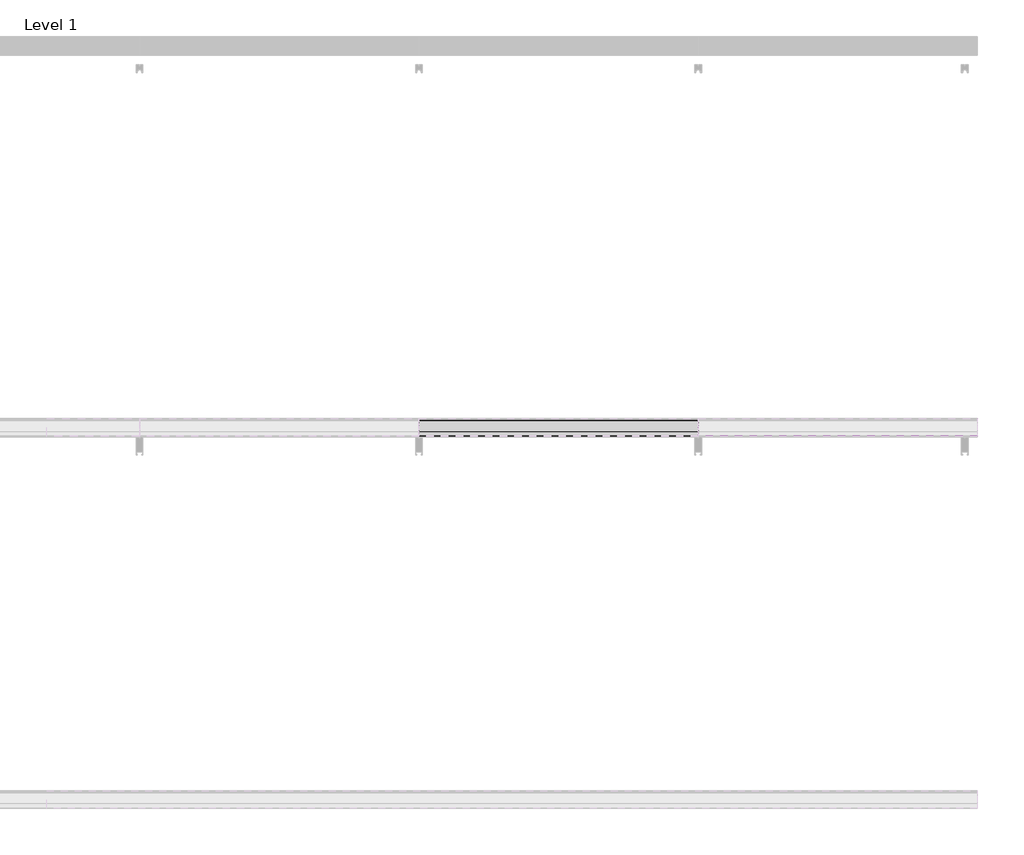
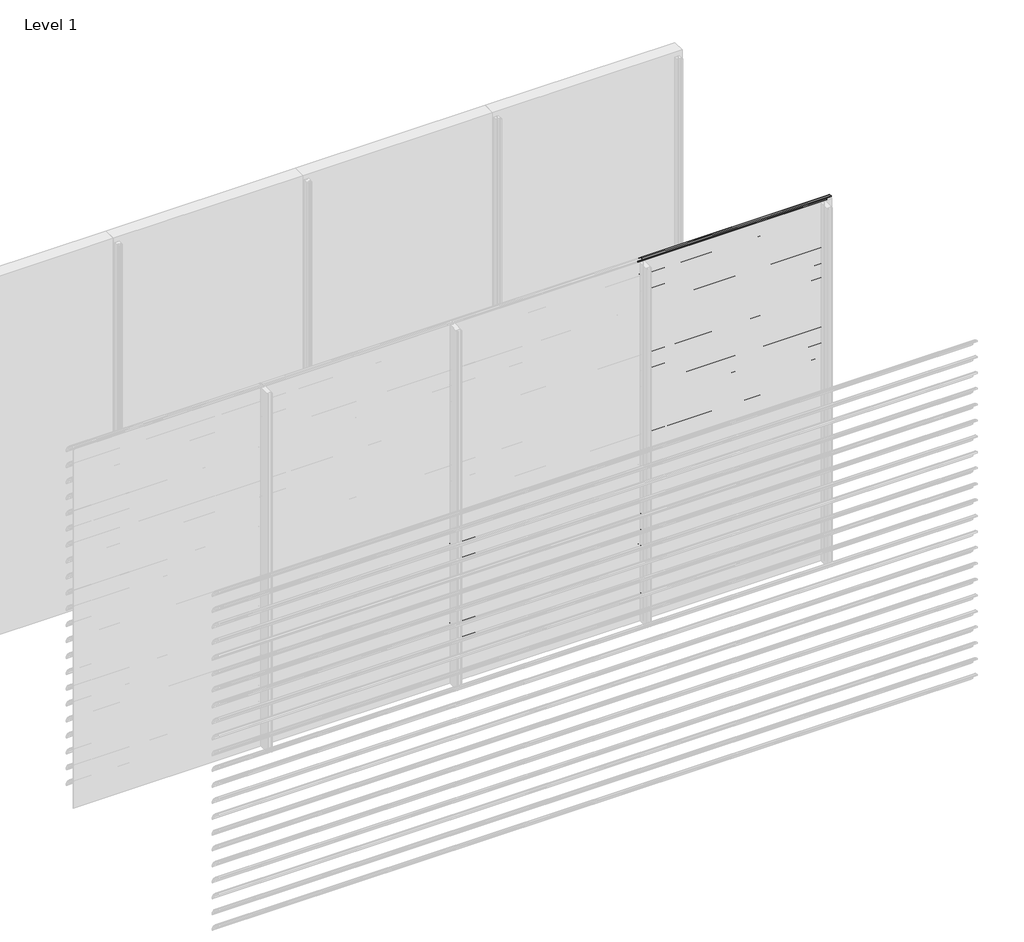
# One storey, part 40 of 57: 20 proxies.
"""IFC4 building model written with IfcOpenShell, lengths in millimetres."""

from ifc_helpers import new_model, si_unit, point, frame, frame_2d, origin, place, context, project, spatial, polyline, circle_curve, trimmed, segment, composite_curve, outline, extrude, element, save

model = new_model("IFC4")

# Units and contexts
model_context = context("Model", 3, world=origin())
ifc_project = project(units=[si_unit("LENGTHUNIT", "METRE", prefix="MILLI")], contexts=[model_context])

# Site, building, storey
site = spatial("IfcSite", under=ifc_project)
building = spatial("IfcBuilding", under=site)
storey = spatial("IfcBuildingStorey", under=building, Name="Level 1", Elevation=0.0)

# Proxies
placement = place(None, origin())
element("IfcBuildingElementProxy", 1, Name="Wall Sweeps", at=placement, inside=storey, context=model_context, shape_type="SweptSolid", body=[
    extrude(outline(composite_curve([segment(trimmed(circle_curve(frame_2d((-17993.7822526, 1154.4913792)), 4.2177474), [point((-17989.6985606, 1155.5462976))], [point((-17993.7822526, 1158.7091266))], False, "CARTESIAN"), True, "CONTINUOUS"), segment(trimmed(circle_curve(frame_2d((-18018.7150834, 1056.2536312)), 105.4456002), [point((-17993.7822526, 1158.7091266))], [point((-17971.7914298, 1150.6832099))], False, "CARTESIAN"), True, "CONTINUOUS"), segment(trimmed(circle_curve(frame_2d((-18061.7199745, 1002.0352476)), 173.7335887), [point((-17971.7914298, 1150.6832099))], [point((-17913.0720121, 1091.9637922))], False, "CARTESIAN"), True, "CONTINUOUS"), segment(trimmed(circle_curve(frame_2d((-18004.9297178, 1040.1860314)), 105.4456002), [point((-17913.0720121, 1091.9637922))], [point((-17903.6249616, 1069.4455765))], False, "CARTESIAN"), True, "CONTINUOUS"), segment(trimmed(circle_curve(frame_2d((-17907.809737, 1068.3307305)), 4.3307305), [point((-17903.6249616, 1069.4455765))], [point((-17909.0769196, 1064.189538))], False, "CARTESIAN"), True, "CONTINUOUS"), segment(polyline([(-17909.0769196, 1064.189538), (-17934.7401984, 1088.9722783)]), True, "CONTINUOUS"), segment(trimmed(circle_curve(frame_2d((-17931.3879574, 1091.2977626)), 4.079877), [point((-17934.7401984, 1088.9722783))], [point((-17930.7310597, 1095.3244091))], False, "CARTESIAN"), True, "CONTINUOUS"), segment(trimmed(circle_curve(frame_2d((-18014.6665585, 1073.2544323)), 86.7885467), [point((-17930.7310597, 1095.3244091))], [point((-17942.3028351, 1121.1683485))], True, "CARTESIAN"), True, "CONTINUOUS"), segment(polyline([(-17942.3028351, 1121.1683485), (-17940.7230099, 1123.9046861)]), True, "CONTINUOUS"), segment(trimmed(circle_curve(frame_2d((-18061.7199745, 1002.0352476)), 171.7335887), [point((-17940.7230099, 1123.9046861))], [point((-17972.7555872, 1148.9289618))], True, "CARTESIAN"), True, "CONTINUOUS"), segment(trimmed(circle_curve(frame_2d((-18018.7150834, 1056.2536312)), 103.4456002), [point((-17972.7555872, 1148.9289618))], [point((-17989.6985606, 1155.5462976))], True, "CARTESIAN"), True, "CONTINUOUS")], self_intersect=False)), frame((3000.0, 0.0, 0.0), z_axis=(1.0, 0.0, 0.0), x_axis=(0.0, 1.0, 0.0)), (0.0, 0.0, 1.0), 1500.0),
])
element("IfcBuildingElementProxy", 2, Name="Wall Sweeps", at=placement, inside=storey, context=model_context, shape_type="SweptSolid", body=[
    extrude(outline(composite_curve([segment(trimmed(circle_curve(frame_2d((-17993.7822526, 1021.4913792)), 4.2177474), [point((-17989.6985606, 1022.5462976))], [point((-17993.7822526, 1025.7091266))], False, "CARTESIAN"), True, "CONTINUOUS"), segment(trimmed(circle_curve(frame_2d((-18018.7150834, 923.2536312)), 105.4456002), [point((-17993.7822526, 1025.7091266))], [point((-17971.7914298, 1017.6832099))], False, "CARTESIAN"), True, "CONTINUOUS"), segment(trimmed(circle_curve(frame_2d((-18061.7199745, 869.0352476)), 173.7335887), [point((-17971.7914298, 1017.6832099))], [point((-17913.0720121, 958.9637922))], False, "CARTESIAN"), True, "CONTINUOUS"), segment(trimmed(circle_curve(frame_2d((-18004.9297178, 907.1860314)), 105.4456002), [point((-17913.0720121, 958.9637922))], [point((-17903.6249616, 936.4455765))], False, "CARTESIAN"), True, "CONTINUOUS"), segment(trimmed(circle_curve(frame_2d((-17907.809737, 935.3307305)), 4.3307305), [point((-17903.6249616, 936.4455765))], [point((-17909.0769196, 931.189538))], False, "CARTESIAN"), True, "CONTINUOUS"), segment(polyline([(-17909.0769196, 931.189538), (-17934.7401984, 955.9722783)]), True, "CONTINUOUS"), segment(trimmed(circle_curve(frame_2d((-17931.3879574, 958.2977626)), 4.079877), [point((-17934.7401984, 955.9722783))], [point((-17930.7310597, 962.3244091))], False, "CARTESIAN"), True, "CONTINUOUS"), segment(trimmed(circle_curve(frame_2d((-18014.6665585, 940.2544323)), 86.7885467), [point((-17930.7310597, 962.3244091))], [point((-17942.3028351, 988.1683485))], True, "CARTESIAN"), True, "CONTINUOUS"), segment(polyline([(-17942.3028351, 988.1683485), (-17940.7230099, 990.9046861)]), True, "CONTINUOUS"), segment(trimmed(circle_curve(frame_2d((-18061.7199745, 869.0352476)), 171.7335887), [point((-17940.7230099, 990.9046861))], [point((-17972.7555872, 1015.9289618))], True, "CARTESIAN"), True, "CONTINUOUS"), segment(trimmed(circle_curve(frame_2d((-18018.7150834, 923.2536312)), 103.4456002), [point((-17972.7555872, 1015.9289618))], [point((-17989.6985606, 1022.5462976))], True, "CARTESIAN"), True, "CONTINUOUS")], self_intersect=False)), frame((3000.0, 0.0, 0.0), z_axis=(1.0, 0.0, 0.0), x_axis=(0.0, 1.0, 0.0)), (0.0, 0.0, 1.0), 1500.0),
])
element("IfcBuildingElementProxy", 3, Name="Wall Sweeps", at=placement, inside=storey, context=model_context, shape_type="SweptSolid", body=[
    extrude(outline(composite_curve([segment(trimmed(circle_curve(frame_2d((-17993.7822526, 888.4913792)), 4.2177474), [point((-17989.6985606, 889.5462976))], [point((-17993.7822526, 892.7091266))], False, "CARTESIAN"), True, "CONTINUOUS"), segment(trimmed(circle_curve(frame_2d((-18018.7150834, 790.2536312)), 105.4456002), [point((-17993.7822526, 892.7091266))], [point((-17971.7914298, 884.6832099))], False, "CARTESIAN"), True, "CONTINUOUS"), segment(trimmed(circle_curve(frame_2d((-18061.7199745, 736.0352476)), 173.7335887), [point((-17971.7914298, 884.6832099))], [point((-17913.0720121, 825.9637922))], False, "CARTESIAN"), True, "CONTINUOUS"), segment(trimmed(circle_curve(frame_2d((-18004.9297178, 774.1860314)), 105.4456002), [point((-17913.0720121, 825.9637922))], [point((-17903.6249616, 803.4455765))], False, "CARTESIAN"), True, "CONTINUOUS"), segment(trimmed(circle_curve(frame_2d((-17907.809737, 802.3307305)), 4.3307305), [point((-17903.6249616, 803.4455765))], [point((-17909.0769196, 798.189538))], False, "CARTESIAN"), True, "CONTINUOUS"), segment(polyline([(-17909.0769196, 798.189538), (-17934.7401984, 822.9722783)]), True, "CONTINUOUS"), segment(trimmed(circle_curve(frame_2d((-17931.3879574, 825.2977626)), 4.079877), [point((-17934.7401984, 822.9722783))], [point((-17930.7310597, 829.3244091))], False, "CARTESIAN"), True, "CONTINUOUS"), segment(trimmed(circle_curve(frame_2d((-18014.6665585, 807.2544323)), 86.7885467), [point((-17930.7310597, 829.3244091))], [point((-17942.3028351, 855.1683485))], True, "CARTESIAN"), True, "CONTINUOUS"), segment(polyline([(-17942.3028351, 855.1683485), (-17940.7230099, 857.9046861)]), True, "CONTINUOUS"), segment(trimmed(circle_curve(frame_2d((-18061.7199745, 736.0352476)), 171.7335887), [point((-17940.7230099, 857.9046861))], [point((-17972.7555872, 882.9289618))], True, "CARTESIAN"), True, "CONTINUOUS"), segment(trimmed(circle_curve(frame_2d((-18018.7150834, 790.2536312)), 103.4456002), [point((-17972.7555872, 882.9289618))], [point((-17989.6985606, 889.5462976))], True, "CARTESIAN"), True, "CONTINUOUS")], self_intersect=False)), frame((3000.0, 0.0, 0.0), z_axis=(1.0, 0.0, 0.0), x_axis=(0.0, 1.0, 0.0)), (0.0, 0.0, 1.0), 1500.0),
])
element("IfcBuildingElementProxy", 4, Name="Wall Sweeps", at=placement, inside=storey, context=model_context, shape_type="SweptSolid", body=[
    extrude(outline(composite_curve([segment(trimmed(circle_curve(frame_2d((-17993.7822526, 755.4913792)), 4.2177474), [point((-17989.6985606, 756.5462976))], [point((-17993.7822526, 759.7091266))], False, "CARTESIAN"), True, "CONTINUOUS"), segment(trimmed(circle_curve(frame_2d((-18018.7150834, 657.2536312)), 105.4456002), [point((-17993.7822526, 759.7091266))], [point((-17971.7914298, 751.6832099))], False, "CARTESIAN"), True, "CONTINUOUS"), segment(trimmed(circle_curve(frame_2d((-18061.7199745, 603.0352476)), 173.7335887), [point((-17971.7914298, 751.6832099))], [point((-17913.0720121, 692.9637922))], False, "CARTESIAN"), True, "CONTINUOUS"), segment(trimmed(circle_curve(frame_2d((-18004.9297178, 641.1860314)), 105.4456002), [point((-17913.0720121, 692.9637922))], [point((-17903.6249616, 670.4455765))], False, "CARTESIAN"), True, "CONTINUOUS"), segment(trimmed(circle_curve(frame_2d((-17907.809737, 669.3307305)), 4.3307305), [point((-17903.6249616, 670.4455765))], [point((-17909.0769196, 665.189538))], False, "CARTESIAN"), True, "CONTINUOUS"), segment(polyline([(-17909.0769196, 665.189538), (-17934.7401984, 689.9722783)]), True, "CONTINUOUS"), segment(trimmed(circle_curve(frame_2d((-17931.3879574, 692.2977626)), 4.079877), [point((-17934.7401984, 689.9722783))], [point((-17930.7310597, 696.3244091))], False, "CARTESIAN"), True, "CONTINUOUS"), segment(trimmed(circle_curve(frame_2d((-18014.6665585, 674.2544323)), 86.7885467), [point((-17930.7310597, 696.3244091))], [point((-17942.3028351, 722.1683485))], True, "CARTESIAN"), True, "CONTINUOUS"), segment(polyline([(-17942.3028351, 722.1683485), (-17940.7230099, 724.9046861)]), True, "CONTINUOUS"), segment(trimmed(circle_curve(frame_2d((-18061.7199745, 603.0352476)), 171.7335887), [point((-17940.7230099, 724.9046861))], [point((-17972.7555872, 749.9289618))], True, "CARTESIAN"), True, "CONTINUOUS"), segment(trimmed(circle_curve(frame_2d((-18018.7150834, 657.2536312)), 103.4456002), [point((-17972.7555872, 749.9289618))], [point((-17989.6985606, 756.5462976))], True, "CARTESIAN"), True, "CONTINUOUS")], self_intersect=False)), frame((3000.0, 0.0, 0.0), z_axis=(1.0, 0.0, 0.0), x_axis=(0.0, 1.0, 0.0)), (0.0, 0.0, 1.0), 1500.0),
])
element("IfcBuildingElementProxy", 5, Name="Wall Sweeps", at=placement, inside=storey, context=model_context, shape_type="SweptSolid", body=[
    extrude(outline(composite_curve([segment(trimmed(circle_curve(frame_2d((-17993.7822526, 622.4913792)), 4.2177474), [point((-17989.6985606, 623.5462976))], [point((-17993.7822526, 626.7091266))], False, "CARTESIAN"), True, "CONTINUOUS"), segment(trimmed(circle_curve(frame_2d((-18018.7150834, 524.2536312)), 105.4456002), [point((-17993.7822526, 626.7091266))], [point((-17971.7914298, 618.6832099))], False, "CARTESIAN"), True, "CONTINUOUS"), segment(trimmed(circle_curve(frame_2d((-18061.7199745, 470.0352476)), 173.7335887), [point((-17971.7914298, 618.6832099))], [point((-17913.0720121, 559.9637922))], False, "CARTESIAN"), True, "CONTINUOUS"), segment(trimmed(circle_curve(frame_2d((-18004.9297178, 508.1860314)), 105.4456002), [point((-17913.0720121, 559.9637922))], [point((-17903.6249616, 537.4455765))], False, "CARTESIAN"), True, "CONTINUOUS"), segment(trimmed(circle_curve(frame_2d((-17907.809737, 536.3307305)), 4.3307305), [point((-17903.6249616, 537.4455765))], [point((-17909.0769196, 532.189538))], False, "CARTESIAN"), True, "CONTINUOUS"), segment(polyline([(-17909.0769196, 532.189538), (-17934.7401984, 556.9722783)]), True, "CONTINUOUS"), segment(trimmed(circle_curve(frame_2d((-17931.3879574, 559.2977626)), 4.079877), [point((-17934.7401984, 556.9722783))], [point((-17930.7310597, 563.3244091))], False, "CARTESIAN"), True, "CONTINUOUS"), segment(trimmed(circle_curve(frame_2d((-18014.6665585, 541.2544323)), 86.7885467), [point((-17930.7310597, 563.3244091))], [point((-17942.3028351, 589.1683485))], True, "CARTESIAN"), True, "CONTINUOUS"), segment(polyline([(-17942.3028351, 589.1683485), (-17940.7230099, 591.9046861)]), True, "CONTINUOUS"), segment(trimmed(circle_curve(frame_2d((-18061.7199745, 470.0352476)), 171.7335887), [point((-17940.7230099, 591.9046861))], [point((-17972.7555872, 616.9289618))], True, "CARTESIAN"), True, "CONTINUOUS"), segment(trimmed(circle_curve(frame_2d((-18018.7150834, 524.2536312)), 103.4456002), [point((-17972.7555872, 616.9289618))], [point((-17989.6985606, 623.5462976))], True, "CARTESIAN"), True, "CONTINUOUS")], self_intersect=False)), frame((3000.0, 0.0, 0.0), z_axis=(1.0, 0.0, 0.0), x_axis=(0.0, 1.0, 0.0)), (0.0, 0.0, 1.0), 1500.0),
])
element("IfcBuildingElementProxy", 6, Name="Wall Sweeps", at=placement, inside=storey, context=model_context, shape_type="SweptSolid", body=[
    extrude(outline(composite_curve([segment(trimmed(circle_curve(frame_2d((-17993.7822526, 489.4913792)), 4.2177474), [point((-17989.6985606, 490.5462976))], [point((-17993.7822526, 493.7091266))], False, "CARTESIAN"), True, "CONTINUOUS"), segment(trimmed(circle_curve(frame_2d((-18018.7150834, 391.2536312)), 105.4456002), [point((-17993.7822526, 493.7091266))], [point((-17971.7914298, 485.6832099))], False, "CARTESIAN"), True, "CONTINUOUS"), segment(trimmed(circle_curve(frame_2d((-18061.7199745, 337.0352476)), 173.7335887), [point((-17971.7914298, 485.6832099))], [point((-17913.0720121, 426.9637922))], False, "CARTESIAN"), True, "CONTINUOUS"), segment(trimmed(circle_curve(frame_2d((-18004.9297178, 375.1860314)), 105.4456002), [point((-17913.0720121, 426.9637922))], [point((-17903.6249616, 404.4455765))], False, "CARTESIAN"), True, "CONTINUOUS"), segment(trimmed(circle_curve(frame_2d((-17907.809737, 403.3307305)), 4.3307305), [point((-17903.6249616, 404.4455765))], [point((-17909.0769196, 399.189538))], False, "CARTESIAN"), True, "CONTINUOUS"), segment(polyline([(-17909.0769196, 399.189538), (-17934.7401984, 423.9722783)]), True, "CONTINUOUS"), segment(trimmed(circle_curve(frame_2d((-17931.3879574, 426.2977626)), 4.079877), [point((-17934.7401984, 423.9722783))], [point((-17930.7310597, 430.3244091))], False, "CARTESIAN"), True, "CONTINUOUS"), segment(trimmed(circle_curve(frame_2d((-18014.6665585, 408.2544323)), 86.7885467), [point((-17930.7310597, 430.3244091))], [point((-17942.3028351, 456.1683485))], True, "CARTESIAN"), True, "CONTINUOUS"), segment(polyline([(-17942.3028351, 456.1683485), (-17940.7230099, 458.9046861)]), True, "CONTINUOUS"), segment(trimmed(circle_curve(frame_2d((-18061.7199745, 337.0352476)), 171.7335887), [point((-17940.7230099, 458.9046861))], [point((-17972.7555872, 483.9289618))], True, "CARTESIAN"), True, "CONTINUOUS"), segment(trimmed(circle_curve(frame_2d((-18018.7150834, 391.2536312)), 103.4456002), [point((-17972.7555872, 483.9289618))], [point((-17989.6985606, 490.5462976))], True, "CARTESIAN"), True, "CONTINUOUS")], self_intersect=False)), frame((3000.0, 0.0, 0.0), z_axis=(1.0, 0.0, 0.0), x_axis=(0.0, 1.0, 0.0)), (0.0, 0.0, 1.0), 1500.0),
])
element("IfcBuildingElementProxy", 7, Name="Wall Sweeps", at=placement, inside=storey, context=model_context, shape_type="SweptSolid", body=[
    extrude(outline(composite_curve([segment(trimmed(circle_curve(frame_2d((-17993.7822526, 356.4913792)), 4.2177474), [point((-17989.6985606, 357.5462976))], [point((-17993.7822526, 360.7091266))], False, "CARTESIAN"), True, "CONTINUOUS"), segment(trimmed(circle_curve(frame_2d((-18018.7150834, 258.2536312)), 105.4456002), [point((-17993.7822526, 360.7091266))], [point((-17971.7914298, 352.6832099))], False, "CARTESIAN"), True, "CONTINUOUS"), segment(trimmed(circle_curve(frame_2d((-18061.7199745, 204.0352476)), 173.7335887), [point((-17971.7914298, 352.6832099))], [point((-17913.0720121, 293.9637922))], False, "CARTESIAN"), True, "CONTINUOUS"), segment(trimmed(circle_curve(frame_2d((-18004.9297178, 242.1860314)), 105.4456002), [point((-17913.0720121, 293.9637922))], [point((-17903.6249616, 271.4455765))], False, "CARTESIAN"), True, "CONTINUOUS"), segment(trimmed(circle_curve(frame_2d((-17907.809737, 270.3307305)), 4.3307305), [point((-17903.6249616, 271.4455765))], [point((-17909.0769196, 266.189538))], False, "CARTESIAN"), True, "CONTINUOUS"), segment(polyline([(-17909.0769196, 266.189538), (-17934.7401984, 290.9722783)]), True, "CONTINUOUS"), segment(trimmed(circle_curve(frame_2d((-17931.3879574, 293.2977626)), 4.079877), [point((-17934.7401984, 290.9722783))], [point((-17930.7310597, 297.3244091))], False, "CARTESIAN"), True, "CONTINUOUS"), segment(trimmed(circle_curve(frame_2d((-18014.6665585, 275.2544323)), 86.7885467), [point((-17930.7310597, 297.3244091))], [point((-17942.3028351, 323.1683485))], True, "CARTESIAN"), True, "CONTINUOUS"), segment(polyline([(-17942.3028351, 323.1683485), (-17940.7230099, 325.9046861)]), True, "CONTINUOUS"), segment(trimmed(circle_curve(frame_2d((-18061.7199745, 204.0352476)), 171.7335887), [point((-17940.7230099, 325.9046861))], [point((-17972.7555872, 350.9289618))], True, "CARTESIAN"), True, "CONTINUOUS"), segment(trimmed(circle_curve(frame_2d((-18018.7150834, 258.2536312)), 103.4456002), [point((-17972.7555872, 350.9289618))], [point((-17989.6985606, 357.5462976))], True, "CARTESIAN"), True, "CONTINUOUS")], self_intersect=False)), frame((3000.0, 0.0, 0.0), z_axis=(1.0, 0.0, 0.0), x_axis=(0.0, 1.0, 0.0)), (0.0, 0.0, 1.0), 1500.0),
])
element("IfcBuildingElementProxy", 8, Name="Wall Sweeps", at=placement, inside=storey, context=model_context, shape_type="SweptSolid", body=[
    extrude(outline(composite_curve([segment(trimmed(circle_curve(frame_2d((-17993.7822526, 223.4913792)), 4.2177474), [point((-17989.6985606, 224.5462976))], [point((-17993.7822526, 227.7091266))], False, "CARTESIAN"), True, "CONTINUOUS"), segment(trimmed(circle_curve(frame_2d((-18018.7150834, 125.2536312)), 105.4456002), [point((-17993.7822526, 227.7091266))], [point((-17971.7914298, 219.6832099))], False, "CARTESIAN"), True, "CONTINUOUS"), segment(trimmed(circle_curve(frame_2d((-18061.7199745, 71.0352476)), 173.7335887), [point((-17971.7914298, 219.6832099))], [point((-17913.0720121, 160.9637922))], False, "CARTESIAN"), True, "CONTINUOUS"), segment(trimmed(circle_curve(frame_2d((-18004.9297178, 109.1860314)), 105.4456002), [point((-17913.0720121, 160.9637922))], [point((-17903.6249616, 138.4455765))], False, "CARTESIAN"), True, "CONTINUOUS"), segment(trimmed(circle_curve(frame_2d((-17907.809737, 137.3307305)), 4.3307305), [point((-17903.6249616, 138.4455765))], [point((-17909.0769196, 133.189538))], False, "CARTESIAN"), True, "CONTINUOUS"), segment(polyline([(-17909.0769196, 133.189538), (-17934.7401984, 157.9722783)]), True, "CONTINUOUS"), segment(trimmed(circle_curve(frame_2d((-17931.3879574, 160.2977626)), 4.079877), [point((-17934.7401984, 157.9722783))], [point((-17930.7310597, 164.3244091))], False, "CARTESIAN"), True, "CONTINUOUS"), segment(trimmed(circle_curve(frame_2d((-18014.6665585, 142.2544323)), 86.7885467), [point((-17930.7310597, 164.3244091))], [point((-17942.3028351, 190.1683485))], True, "CARTESIAN"), True, "CONTINUOUS"), segment(polyline([(-17942.3028351, 190.1683485), (-17940.7230099, 192.9046861)]), True, "CONTINUOUS"), segment(trimmed(circle_curve(frame_2d((-18061.7199745, 71.0352476)), 171.7335887), [point((-17940.7230099, 192.9046861))], [point((-17972.7555872, 217.9289618))], True, "CARTESIAN"), True, "CONTINUOUS"), segment(trimmed(circle_curve(frame_2d((-18018.7150834, 125.2536312)), 103.4456002), [point((-17972.7555872, 217.9289618))], [point((-17989.6985606, 224.5462976))], True, "CARTESIAN"), True, "CONTINUOUS")], self_intersect=False)), frame((3000.0, 0.0, 0.0), z_axis=(1.0, 0.0, 0.0), x_axis=(0.0, 1.0, 0.0)), (0.0, 0.0, 1.0), 1500.0),
])
element("IfcBuildingElementProxy", 9, Name="Wall Sweeps", at=placement, inside=storey, context=model_context, shape_type="SweptSolid", body=[
    extrude(outline(composite_curve([segment(trimmed(circle_curve(frame_2d((-17993.7822526, 3016.4913792)), 4.2177474), [point((-17989.6985606, 3017.5462976))], [point((-17993.7822526, 3020.7091266))], False, "CARTESIAN"), True, "CONTINUOUS"), segment(trimmed(circle_curve(frame_2d((-18018.7150834, 2918.2536312)), 105.4456002), [point((-17993.7822526, 3020.7091266))], [point((-17971.7914298, 3012.6832099))], False, "CARTESIAN"), True, "CONTINUOUS"), segment(trimmed(circle_curve(frame_2d((-18061.7199745, 2864.0352476)), 173.7335887), [point((-17971.7914298, 3012.6832099))], [point((-17913.0720121, 2953.9637922))], False, "CARTESIAN"), True, "CONTINUOUS"), segment(trimmed(circle_curve(frame_2d((-18004.9297178, 2902.1860314)), 105.4456002), [point((-17913.0720121, 2953.9637922))], [point((-17903.6249616, 2931.4455765))], False, "CARTESIAN"), True, "CONTINUOUS"), segment(trimmed(circle_curve(frame_2d((-17907.809737, 2930.3307305)), 4.3307305), [point((-17903.6249616, 2931.4455765))], [point((-17909.0769196, 2926.189538))], False, "CARTESIAN"), True, "CONTINUOUS"), segment(polyline([(-17909.0769196, 2926.189538), (-17934.7401984, 2950.9722783)]), True, "CONTINUOUS"), segment(trimmed(circle_curve(frame_2d((-17931.3879574, 2953.2977626)), 4.079877), [point((-17934.7401984, 2950.9722783))], [point((-17930.7310597, 2957.3244091))], False, "CARTESIAN"), True, "CONTINUOUS"), segment(trimmed(circle_curve(frame_2d((-18014.6665585, 2935.2544323)), 86.7885467), [point((-17930.7310597, 2957.3244091))], [point((-17942.3028351, 2983.1683485))], True, "CARTESIAN"), True, "CONTINUOUS"), segment(polyline([(-17942.3028351, 2983.1683485), (-17940.7230099, 2985.9046861)]), True, "CONTINUOUS"), segment(trimmed(circle_curve(frame_2d((-18061.7199745, 2864.0352476)), 171.7335887), [point((-17940.7230099, 2985.9046861))], [point((-17972.7555872, 3010.9289618))], True, "CARTESIAN"), True, "CONTINUOUS"), segment(trimmed(circle_curve(frame_2d((-18018.7150834, 2918.2536312)), 103.4456002), [point((-17972.7555872, 3010.9289618))], [point((-17989.6985606, 3017.5462976))], True, "CARTESIAN"), True, "CONTINUOUS")], self_intersect=False)), frame((4500.0, 0.0, 0.0), z_axis=(1.0, 0.0, 0.0), x_axis=(0.0, 1.0, 0.0)), (0.0, 0.0, 1.0), 1500.0),
])
element("IfcBuildingElementProxy", 10, Name="Wall Sweeps", at=placement, inside=storey, context=model_context, shape_type="SweptSolid", body=[
    extrude(outline(composite_curve([segment(trimmed(circle_curve(frame_2d((-17993.7822526, 2883.4913792)), 4.2177474), [point((-17989.6985606, 2884.5462976))], [point((-17993.7822526, 2887.7091266))], False, "CARTESIAN"), True, "CONTINUOUS"), segment(trimmed(circle_curve(frame_2d((-18018.7150834, 2785.2536312)), 105.4456002), [point((-17993.7822526, 2887.7091266))], [point((-17971.7914298, 2879.6832099))], False, "CARTESIAN"), True, "CONTINUOUS"), segment(trimmed(circle_curve(frame_2d((-18061.7199745, 2731.0352476)), 173.7335887), [point((-17971.7914298, 2879.6832099))], [point((-17913.0720121, 2820.9637922))], False, "CARTESIAN"), True, "CONTINUOUS"), segment(trimmed(circle_curve(frame_2d((-18004.9297178, 2769.1860314)), 105.4456002), [point((-17913.0720121, 2820.9637922))], [point((-17903.6249616, 2798.4455765))], False, "CARTESIAN"), True, "CONTINUOUS"), segment(trimmed(circle_curve(frame_2d((-17907.809737, 2797.3307305)), 4.3307305), [point((-17903.6249616, 2798.4455765))], [point((-17909.0769196, 2793.189538))], False, "CARTESIAN"), True, "CONTINUOUS"), segment(polyline([(-17909.0769196, 2793.189538), (-17934.7401984, 2817.9722783)]), True, "CONTINUOUS"), segment(trimmed(circle_curve(frame_2d((-17931.3879574, 2820.2977626)), 4.079877), [point((-17934.7401984, 2817.9722783))], [point((-17930.7310597, 2824.3244091))], False, "CARTESIAN"), True, "CONTINUOUS"), segment(trimmed(circle_curve(frame_2d((-18014.6665585, 2802.2544323)), 86.7885467), [point((-17930.7310597, 2824.3244091))], [point((-17942.3028351, 2850.1683485))], True, "CARTESIAN"), True, "CONTINUOUS"), segment(polyline([(-17942.3028351, 2850.1683485), (-17940.7230099, 2852.9046861)]), True, "CONTINUOUS"), segment(trimmed(circle_curve(frame_2d((-18061.7199745, 2731.0352476)), 171.7335887), [point((-17940.7230099, 2852.9046861))], [point((-17972.7555872, 2877.9289618))], True, "CARTESIAN"), True, "CONTINUOUS"), segment(trimmed(circle_curve(frame_2d((-18018.7150834, 2785.2536312)), 103.4456002), [point((-17972.7555872, 2877.9289618))], [point((-17989.6985606, 2884.5462976))], True, "CARTESIAN"), True, "CONTINUOUS")], self_intersect=False)), frame((4500.0, 0.0, 0.0), z_axis=(1.0, 0.0, 0.0), x_axis=(0.0, 1.0, 0.0)), (0.0, 0.0, 1.0), 1500.0),
])
element("IfcBuildingElementProxy", 11, Name="Wall Sweeps", at=placement, inside=storey, context=model_context, shape_type="SweptSolid", body=[
    extrude(outline(composite_curve([segment(trimmed(circle_curve(frame_2d((-17993.7822526, 2750.4913792)), 4.2177474), [point((-17989.6985606, 2751.5462976))], [point((-17993.7822526, 2754.7091266))], False, "CARTESIAN"), True, "CONTINUOUS"), segment(trimmed(circle_curve(frame_2d((-18018.7150834, 2652.2536312)), 105.4456002), [point((-17993.7822526, 2754.7091266))], [point((-17971.7914298, 2746.6832099))], False, "CARTESIAN"), True, "CONTINUOUS"), segment(trimmed(circle_curve(frame_2d((-18061.7199745, 2598.0352476)), 173.7335887), [point((-17971.7914298, 2746.6832099))], [point((-17913.0720121, 2687.9637922))], False, "CARTESIAN"), True, "CONTINUOUS"), segment(trimmed(circle_curve(frame_2d((-18004.9297178, 2636.1860314)), 105.4456002), [point((-17913.0720121, 2687.9637922))], [point((-17903.6249616, 2665.4455765))], False, "CARTESIAN"), True, "CONTINUOUS"), segment(trimmed(circle_curve(frame_2d((-17907.809737, 2664.3307305)), 4.3307305), [point((-17903.6249616, 2665.4455765))], [point((-17909.0769196, 2660.189538))], False, "CARTESIAN"), True, "CONTINUOUS"), segment(polyline([(-17909.0769196, 2660.189538), (-17934.7401984, 2684.9722783)]), True, "CONTINUOUS"), segment(trimmed(circle_curve(frame_2d((-17931.3879574, 2687.2977626)), 4.079877), [point((-17934.7401984, 2684.9722783))], [point((-17930.7310597, 2691.3244091))], False, "CARTESIAN"), True, "CONTINUOUS"), segment(trimmed(circle_curve(frame_2d((-18014.6665585, 2669.2544323)), 86.7885467), [point((-17930.7310597, 2691.3244091))], [point((-17942.3028351, 2717.1683485))], True, "CARTESIAN"), True, "CONTINUOUS"), segment(polyline([(-17942.3028351, 2717.1683485), (-17940.7230099, 2719.9046861)]), True, "CONTINUOUS"), segment(trimmed(circle_curve(frame_2d((-18061.7199745, 2598.0352476)), 171.7335887), [point((-17940.7230099, 2719.9046861))], [point((-17972.7555872, 2744.9289618))], True, "CARTESIAN"), True, "CONTINUOUS"), segment(trimmed(circle_curve(frame_2d((-18018.7150834, 2652.2536312)), 103.4456002), [point((-17972.7555872, 2744.9289618))], [point((-17989.6985606, 2751.5462976))], True, "CARTESIAN"), True, "CONTINUOUS")], self_intersect=False)), frame((4500.0, 0.0, 0.0), z_axis=(1.0, 0.0, 0.0), x_axis=(0.0, 1.0, 0.0)), (0.0, 0.0, 1.0), 1500.0),
])
element("IfcBuildingElementProxy", 12, Name="Wall Sweeps", at=placement, inside=storey, context=model_context, shape_type="SweptSolid", body=[
    extrude(outline(composite_curve([segment(trimmed(circle_curve(frame_2d((-17993.7822526, 2617.4913792)), 4.2177474), [point((-17989.6985606, 2618.5462976))], [point((-17993.7822526, 2621.7091266))], False, "CARTESIAN"), True, "CONTINUOUS"), segment(trimmed(circle_curve(frame_2d((-18018.7150834, 2519.2536312)), 105.4456002), [point((-17993.7822526, 2621.7091266))], [point((-17971.7914298, 2613.6832099))], False, "CARTESIAN"), True, "CONTINUOUS"), segment(trimmed(circle_curve(frame_2d((-18061.7199745, 2465.0352476)), 173.7335887), [point((-17971.7914298, 2613.6832099))], [point((-17913.0720121, 2554.9637922))], False, "CARTESIAN"), True, "CONTINUOUS"), segment(trimmed(circle_curve(frame_2d((-18004.9297178, 2503.1860314)), 105.4456002), [point((-17913.0720121, 2554.9637922))], [point((-17903.6249616, 2532.4455765))], False, "CARTESIAN"), True, "CONTINUOUS"), segment(trimmed(circle_curve(frame_2d((-17907.809737, 2531.3307305)), 4.3307305), [point((-17903.6249616, 2532.4455765))], [point((-17909.0769196, 2527.189538))], False, "CARTESIAN"), True, "CONTINUOUS"), segment(polyline([(-17909.0769196, 2527.189538), (-17934.7401984, 2551.9722783)]), True, "CONTINUOUS"), segment(trimmed(circle_curve(frame_2d((-17931.3879574, 2554.2977626)), 4.079877), [point((-17934.7401984, 2551.9722783))], [point((-17930.7310597, 2558.3244091))], False, "CARTESIAN"), True, "CONTINUOUS"), segment(trimmed(circle_curve(frame_2d((-18014.6665585, 2536.2544323)), 86.7885467), [point((-17930.7310597, 2558.3244091))], [point((-17942.3028351, 2584.1683485))], True, "CARTESIAN"), True, "CONTINUOUS"), segment(polyline([(-17942.3028351, 2584.1683485), (-17940.7230099, 2586.9046861)]), True, "CONTINUOUS"), segment(trimmed(circle_curve(frame_2d((-18061.7199745, 2465.0352476)), 171.7335887), [point((-17940.7230099, 2586.9046861))], [point((-17972.7555872, 2611.9289618))], True, "CARTESIAN"), True, "CONTINUOUS"), segment(trimmed(circle_curve(frame_2d((-18018.7150834, 2519.2536312)), 103.4456002), [point((-17972.7555872, 2611.9289618))], [point((-17989.6985606, 2618.5462976))], True, "CARTESIAN"), True, "CONTINUOUS")], self_intersect=False)), frame((4500.0, 0.0, 0.0), z_axis=(1.0, 0.0, 0.0), x_axis=(0.0, 1.0, 0.0)), (0.0, 0.0, 1.0), 1500.0),
])
element("IfcBuildingElementProxy", 13, Name="Wall Sweeps", at=placement, inside=storey, context=model_context, shape_type="SweptSolid", body=[
    extrude(outline(composite_curve([segment(trimmed(circle_curve(frame_2d((-17993.7822526, 2484.4913792)), 4.2177474), [point((-17989.6985606, 2485.5462976))], [point((-17993.7822526, 2488.7091266))], False, "CARTESIAN"), True, "CONTINUOUS"), segment(trimmed(circle_curve(frame_2d((-18018.7150834, 2386.2536312)), 105.4456002), [point((-17993.7822526, 2488.7091266))], [point((-17971.7914298, 2480.6832099))], False, "CARTESIAN"), True, "CONTINUOUS"), segment(trimmed(circle_curve(frame_2d((-18061.7199745, 2332.0352476)), 173.7335887), [point((-17971.7914298, 2480.6832099))], [point((-17913.0720121, 2421.9637922))], False, "CARTESIAN"), True, "CONTINUOUS"), segment(trimmed(circle_curve(frame_2d((-18004.9297178, 2370.1860314)), 105.4456002), [point((-17913.0720121, 2421.9637922))], [point((-17903.6249616, 2399.4455765))], False, "CARTESIAN"), True, "CONTINUOUS"), segment(trimmed(circle_curve(frame_2d((-17907.809737, 2398.3307305)), 4.3307305), [point((-17903.6249616, 2399.4455765))], [point((-17909.0769196, 2394.189538))], False, "CARTESIAN"), True, "CONTINUOUS"), segment(polyline([(-17909.0769196, 2394.189538), (-17934.7401984, 2418.9722783)]), True, "CONTINUOUS"), segment(trimmed(circle_curve(frame_2d((-17931.3879574, 2421.2977626)), 4.079877), [point((-17934.7401984, 2418.9722783))], [point((-17930.7310597, 2425.3244091))], False, "CARTESIAN"), True, "CONTINUOUS"), segment(trimmed(circle_curve(frame_2d((-18014.6665585, 2403.2544323)), 86.7885467), [point((-17930.7310597, 2425.3244091))], [point((-17942.3028351, 2451.1683485))], True, "CARTESIAN"), True, "CONTINUOUS"), segment(polyline([(-17942.3028351, 2451.1683485), (-17940.7230099, 2453.9046861)]), True, "CONTINUOUS"), segment(trimmed(circle_curve(frame_2d((-18061.7199745, 2332.0352476)), 171.7335887), [point((-17940.7230099, 2453.9046861))], [point((-17972.7555872, 2478.9289618))], True, "CARTESIAN"), True, "CONTINUOUS"), segment(trimmed(circle_curve(frame_2d((-18018.7150834, 2386.2536312)), 103.4456002), [point((-17972.7555872, 2478.9289618))], [point((-17989.6985606, 2485.5462976))], True, "CARTESIAN"), True, "CONTINUOUS")], self_intersect=False)), frame((4500.0, 0.0, 0.0), z_axis=(1.0, 0.0, 0.0), x_axis=(0.0, 1.0, 0.0)), (0.0, 0.0, 1.0), 1500.0),
])
element("IfcBuildingElementProxy", 14, Name="Wall Sweeps", at=placement, inside=storey, context=model_context, shape_type="SweptSolid", body=[
    extrude(outline(composite_curve([segment(trimmed(circle_curve(frame_2d((-17993.7822526, 2351.4913792)), 4.2177474), [point((-17989.6985606, 2352.5462976))], [point((-17993.7822526, 2355.7091266))], False, "CARTESIAN"), True, "CONTINUOUS"), segment(trimmed(circle_curve(frame_2d((-18018.7150834, 2253.2536312)), 105.4456002), [point((-17993.7822526, 2355.7091266))], [point((-17971.7914298, 2347.6832099))], False, "CARTESIAN"), True, "CONTINUOUS"), segment(trimmed(circle_curve(frame_2d((-18061.7199745, 2199.0352476)), 173.7335887), [point((-17971.7914298, 2347.6832099))], [point((-17913.0720121, 2288.9637922))], False, "CARTESIAN"), True, "CONTINUOUS"), segment(trimmed(circle_curve(frame_2d((-18004.9297178, 2237.1860314)), 105.4456002), [point((-17913.0720121, 2288.9637922))], [point((-17903.6249616, 2266.4455765))], False, "CARTESIAN"), True, "CONTINUOUS"), segment(trimmed(circle_curve(frame_2d((-17907.809737, 2265.3307305)), 4.3307305), [point((-17903.6249616, 2266.4455765))], [point((-17909.0769196, 2261.189538))], False, "CARTESIAN"), True, "CONTINUOUS"), segment(polyline([(-17909.0769196, 2261.189538), (-17934.7401984, 2285.9722783)]), True, "CONTINUOUS"), segment(trimmed(circle_curve(frame_2d((-17931.3879574, 2288.2977626)), 4.079877), [point((-17934.7401984, 2285.9722783))], [point((-17930.7310597, 2292.3244091))], False, "CARTESIAN"), True, "CONTINUOUS"), segment(trimmed(circle_curve(frame_2d((-18014.6665585, 2270.2544323)), 86.7885467), [point((-17930.7310597, 2292.3244091))], [point((-17942.3028351, 2318.1683485))], True, "CARTESIAN"), True, "CONTINUOUS"), segment(polyline([(-17942.3028351, 2318.1683485), (-17940.7230099, 2320.9046861)]), True, "CONTINUOUS"), segment(trimmed(circle_curve(frame_2d((-18061.7199745, 2199.0352476)), 171.7335887), [point((-17940.7230099, 2320.9046861))], [point((-17972.7555872, 2345.9289618))], True, "CARTESIAN"), True, "CONTINUOUS"), segment(trimmed(circle_curve(frame_2d((-18018.7150834, 2253.2536312)), 103.4456002), [point((-17972.7555872, 2345.9289618))], [point((-17989.6985606, 2352.5462976))], True, "CARTESIAN"), True, "CONTINUOUS")], self_intersect=False)), frame((4500.0, 0.0, 0.0), z_axis=(1.0, 0.0, 0.0), x_axis=(0.0, 1.0, 0.0)), (0.0, 0.0, 1.0), 1500.0),
])
element("IfcBuildingElementProxy", 15, Name="Wall Sweeps", at=placement, inside=storey, context=model_context, shape_type="SweptSolid", body=[
    extrude(outline(composite_curve([segment(trimmed(circle_curve(frame_2d((-17993.7822526, 2218.4913792)), 4.2177474), [point((-17989.6985606, 2219.5462976))], [point((-17993.7822526, 2222.7091266))], False, "CARTESIAN"), True, "CONTINUOUS"), segment(trimmed(circle_curve(frame_2d((-18018.7150834, 2120.2536312)), 105.4456002), [point((-17993.7822526, 2222.7091266))], [point((-17971.7914298, 2214.6832099))], False, "CARTESIAN"), True, "CONTINUOUS"), segment(trimmed(circle_curve(frame_2d((-18061.7199745, 2066.0352476)), 173.7335887), [point((-17971.7914298, 2214.6832099))], [point((-17913.0720121, 2155.9637922))], False, "CARTESIAN"), True, "CONTINUOUS"), segment(trimmed(circle_curve(frame_2d((-18004.9297178, 2104.1860314)), 105.4456002), [point((-17913.0720121, 2155.9637922))], [point((-17903.6249616, 2133.4455765))], False, "CARTESIAN"), True, "CONTINUOUS"), segment(trimmed(circle_curve(frame_2d((-17907.809737, 2132.3307305)), 4.3307305), [point((-17903.6249616, 2133.4455765))], [point((-17909.0769196, 2128.189538))], False, "CARTESIAN"), True, "CONTINUOUS"), segment(polyline([(-17909.0769196, 2128.189538), (-17934.7401984, 2152.9722783)]), True, "CONTINUOUS"), segment(trimmed(circle_curve(frame_2d((-17931.3879574, 2155.2977626)), 4.079877), [point((-17934.7401984, 2152.9722783))], [point((-17930.7310597, 2159.3244091))], False, "CARTESIAN"), True, "CONTINUOUS"), segment(trimmed(circle_curve(frame_2d((-18014.6665585, 2137.2544323)), 86.7885467), [point((-17930.7310597, 2159.3244091))], [point((-17942.3028351, 2185.1683485))], True, "CARTESIAN"), True, "CONTINUOUS"), segment(polyline([(-17942.3028351, 2185.1683485), (-17940.7230099, 2187.9046861)]), True, "CONTINUOUS"), segment(trimmed(circle_curve(frame_2d((-18061.7199745, 2066.0352476)), 171.7335887), [point((-17940.7230099, 2187.9046861))], [point((-17972.7555872, 2212.9289618))], True, "CARTESIAN"), True, "CONTINUOUS"), segment(trimmed(circle_curve(frame_2d((-18018.7150834, 2120.2536312)), 103.4456002), [point((-17972.7555872, 2212.9289618))], [point((-17989.6985606, 2219.5462976))], True, "CARTESIAN"), True, "CONTINUOUS")], self_intersect=False)), frame((4500.0, 0.0, 0.0), z_axis=(1.0, 0.0, 0.0), x_axis=(0.0, 1.0, 0.0)), (0.0, 0.0, 1.0), 1500.0),
])
element("IfcBuildingElementProxy", 16, Name="Wall Sweeps", at=placement, inside=storey, context=model_context, shape_type="SweptSolid", body=[
    extrude(outline(composite_curve([segment(trimmed(circle_curve(frame_2d((-17993.7822526, 2085.4913792)), 4.2177474), [point((-17989.6985606, 2086.5462976))], [point((-17993.7822526, 2089.7091266))], False, "CARTESIAN"), True, "CONTINUOUS"), segment(trimmed(circle_curve(frame_2d((-18018.7150834, 1987.2536312)), 105.4456002), [point((-17993.7822526, 2089.7091266))], [point((-17971.7914298, 2081.6832099))], False, "CARTESIAN"), True, "CONTINUOUS"), segment(trimmed(circle_curve(frame_2d((-18061.7199745, 1933.0352476)), 173.7335887), [point((-17971.7914298, 2081.6832099))], [point((-17913.0720121, 2022.9637922))], False, "CARTESIAN"), True, "CONTINUOUS"), segment(trimmed(circle_curve(frame_2d((-18004.9297178, 1971.1860314)), 105.4456002), [point((-17913.0720121, 2022.9637922))], [point((-17903.6249616, 2000.4455765))], False, "CARTESIAN"), True, "CONTINUOUS"), segment(trimmed(circle_curve(frame_2d((-17907.809737, 1999.3307305)), 4.3307305), [point((-17903.6249616, 2000.4455765))], [point((-17909.0769196, 1995.189538))], False, "CARTESIAN"), True, "CONTINUOUS"), segment(polyline([(-17909.0769196, 1995.189538), (-17934.7401984, 2019.9722783)]), True, "CONTINUOUS"), segment(trimmed(circle_curve(frame_2d((-17931.3879574, 2022.2977626)), 4.079877), [point((-17934.7401984, 2019.9722783))], [point((-17930.7310597, 2026.3244091))], False, "CARTESIAN"), True, "CONTINUOUS"), segment(trimmed(circle_curve(frame_2d((-18014.6665585, 2004.2544323)), 86.7885467), [point((-17930.7310597, 2026.3244091))], [point((-17942.3028351, 2052.1683485))], True, "CARTESIAN"), True, "CONTINUOUS"), segment(polyline([(-17942.3028351, 2052.1683485), (-17940.7230099, 2054.9046861)]), True, "CONTINUOUS"), segment(trimmed(circle_curve(frame_2d((-18061.7199745, 1933.0352476)), 171.7335887), [point((-17940.7230099, 2054.9046861))], [point((-17972.7555872, 2079.9289618))], True, "CARTESIAN"), True, "CONTINUOUS"), segment(trimmed(circle_curve(frame_2d((-18018.7150834, 1987.2536312)), 103.4456002), [point((-17972.7555872, 2079.9289618))], [point((-17989.6985606, 2086.5462976))], True, "CARTESIAN"), True, "CONTINUOUS")], self_intersect=False)), frame((4500.0, 0.0, 0.0), z_axis=(1.0, 0.0, 0.0), x_axis=(0.0, 1.0, 0.0)), (0.0, 0.0, 1.0), 1500.0),
])
element("IfcBuildingElementProxy", 17, Name="Wall Sweeps", at=placement, inside=storey, context=model_context, shape_type="SweptSolid", body=[
    extrude(outline(composite_curve([segment(trimmed(circle_curve(frame_2d((-17993.7822526, 1952.4913792)), 4.2177474), [point((-17989.6985606, 1953.5462976))], [point((-17993.7822526, 1956.7091266))], False, "CARTESIAN"), True, "CONTINUOUS"), segment(trimmed(circle_curve(frame_2d((-18018.7150834, 1854.2536312)), 105.4456002), [point((-17993.7822526, 1956.7091266))], [point((-17971.7914298, 1948.6832099))], False, "CARTESIAN"), True, "CONTINUOUS"), segment(trimmed(circle_curve(frame_2d((-18061.7199745, 1800.0352476)), 173.7335887), [point((-17971.7914298, 1948.6832099))], [point((-17913.0720121, 1889.9637922))], False, "CARTESIAN"), True, "CONTINUOUS"), segment(trimmed(circle_curve(frame_2d((-18004.9297178, 1838.1860314)), 105.4456002), [point((-17913.0720121, 1889.9637922))], [point((-17903.6249616, 1867.4455765))], False, "CARTESIAN"), True, "CONTINUOUS"), segment(trimmed(circle_curve(frame_2d((-17907.809737, 1866.3307305)), 4.3307305), [point((-17903.6249616, 1867.4455765))], [point((-17909.0769196, 1862.189538))], False, "CARTESIAN"), True, "CONTINUOUS"), segment(polyline([(-17909.0769196, 1862.189538), (-17934.7401984, 1886.9722783)]), True, "CONTINUOUS"), segment(trimmed(circle_curve(frame_2d((-17931.3879574, 1889.2977626)), 4.079877), [point((-17934.7401984, 1886.9722783))], [point((-17930.7310597, 1893.3244091))], False, "CARTESIAN"), True, "CONTINUOUS"), segment(trimmed(circle_curve(frame_2d((-18014.6665585, 1871.2544323)), 86.7885467), [point((-17930.7310597, 1893.3244091))], [point((-17942.3028351, 1919.1683485))], True, "CARTESIAN"), True, "CONTINUOUS"), segment(polyline([(-17942.3028351, 1919.1683485), (-17940.7230099, 1921.9046861)]), True, "CONTINUOUS"), segment(trimmed(circle_curve(frame_2d((-18061.7199745, 1800.0352476)), 171.7335887), [point((-17940.7230099, 1921.9046861))], [point((-17972.7555872, 1946.9289618))], True, "CARTESIAN"), True, "CONTINUOUS"), segment(trimmed(circle_curve(frame_2d((-18018.7150834, 1854.2536312)), 103.4456002), [point((-17972.7555872, 1946.9289618))], [point((-17989.6985606, 1953.5462976))], True, "CARTESIAN"), True, "CONTINUOUS")], self_intersect=False)), frame((4500.0, 0.0, 0.0), z_axis=(1.0, 0.0, 0.0), x_axis=(0.0, 1.0, 0.0)), (0.0, 0.0, 1.0), 1500.0),
])
element("IfcBuildingElementProxy", 18, Name="Wall Sweeps", at=placement, inside=storey, context=model_context, shape_type="SweptSolid", body=[
    extrude(outline(composite_curve([segment(trimmed(circle_curve(frame_2d((-17993.7822526, 1819.4913792)), 4.2177474), [point((-17989.6985606, 1820.5462976))], [point((-17993.7822526, 1823.7091266))], False, "CARTESIAN"), True, "CONTINUOUS"), segment(trimmed(circle_curve(frame_2d((-18018.7150834, 1721.2536312)), 105.4456002), [point((-17993.7822526, 1823.7091266))], [point((-17971.7914298, 1815.6832099))], False, "CARTESIAN"), True, "CONTINUOUS"), segment(trimmed(circle_curve(frame_2d((-18061.7199745, 1667.0352476)), 173.7335887), [point((-17971.7914298, 1815.6832099))], [point((-17913.0720121, 1756.9637922))], False, "CARTESIAN"), True, "CONTINUOUS"), segment(trimmed(circle_curve(frame_2d((-18004.9297178, 1705.1860314)), 105.4456002), [point((-17913.0720121, 1756.9637922))], [point((-17903.6249616, 1734.4455765))], False, "CARTESIAN"), True, "CONTINUOUS"), segment(trimmed(circle_curve(frame_2d((-17907.809737, 1733.3307305)), 4.3307305), [point((-17903.6249616, 1734.4455765))], [point((-17909.0769196, 1729.189538))], False, "CARTESIAN"), True, "CONTINUOUS"), segment(polyline([(-17909.0769196, 1729.189538), (-17934.7401984, 1753.9722783)]), True, "CONTINUOUS"), segment(trimmed(circle_curve(frame_2d((-17931.3879574, 1756.2977626)), 4.079877), [point((-17934.7401984, 1753.9722783))], [point((-17930.7310597, 1760.3244091))], False, "CARTESIAN"), True, "CONTINUOUS"), segment(trimmed(circle_curve(frame_2d((-18014.6665585, 1738.2544323)), 86.7885467), [point((-17930.7310597, 1760.3244091))], [point((-17942.3028351, 1786.1683485))], True, "CARTESIAN"), True, "CONTINUOUS"), segment(polyline([(-17942.3028351, 1786.1683485), (-17940.7230099, 1788.9046861)]), True, "CONTINUOUS"), segment(trimmed(circle_curve(frame_2d((-18061.7199745, 1667.0352476)), 171.7335887), [point((-17940.7230099, 1788.9046861))], [point((-17972.7555872, 1813.9289618))], True, "CARTESIAN"), True, "CONTINUOUS"), segment(trimmed(circle_curve(frame_2d((-18018.7150834, 1721.2536312)), 103.4456002), [point((-17972.7555872, 1813.9289618))], [point((-17989.6985606, 1820.5462976))], True, "CARTESIAN"), True, "CONTINUOUS")], self_intersect=False)), frame((4500.0, 0.0, 0.0), z_axis=(1.0, 0.0, 0.0), x_axis=(0.0, 1.0, 0.0)), (0.0, 0.0, 1.0), 1500.0),
])
element("IfcBuildingElementProxy", 19, Name="Wall Sweeps", at=placement, inside=storey, context=model_context, shape_type="SweptSolid", body=[
    extrude(outline(composite_curve([segment(trimmed(circle_curve(frame_2d((-17993.7822526, 1686.4913792)), 4.2177474), [point((-17989.6985606, 1687.5462976))], [point((-17993.7822526, 1690.7091266))], False, "CARTESIAN"), True, "CONTINUOUS"), segment(trimmed(circle_curve(frame_2d((-18018.7150834, 1588.2536312)), 105.4456002), [point((-17993.7822526, 1690.7091266))], [point((-17971.7914298, 1682.6832099))], False, "CARTESIAN"), True, "CONTINUOUS"), segment(trimmed(circle_curve(frame_2d((-18061.7199745, 1534.0352476)), 173.7335887), [point((-17971.7914298, 1682.6832099))], [point((-17913.0720121, 1623.9637922))], False, "CARTESIAN"), True, "CONTINUOUS"), segment(trimmed(circle_curve(frame_2d((-18004.9297178, 1572.1860314)), 105.4456002), [point((-17913.0720121, 1623.9637922))], [point((-17903.6249616, 1601.4455765))], False, "CARTESIAN"), True, "CONTINUOUS"), segment(trimmed(circle_curve(frame_2d((-17907.809737, 1600.3307305)), 4.3307305), [point((-17903.6249616, 1601.4455765))], [point((-17909.0769196, 1596.189538))], False, "CARTESIAN"), True, "CONTINUOUS"), segment(polyline([(-17909.0769196, 1596.189538), (-17934.7401984, 1620.9722783)]), True, "CONTINUOUS"), segment(trimmed(circle_curve(frame_2d((-17931.3879574, 1623.2977626)), 4.079877), [point((-17934.7401984, 1620.9722783))], [point((-17930.7310597, 1627.3244091))], False, "CARTESIAN"), True, "CONTINUOUS"), segment(trimmed(circle_curve(frame_2d((-18014.6665585, 1605.2544323)), 86.7885467), [point((-17930.7310597, 1627.3244091))], [point((-17942.3028351, 1653.1683485))], True, "CARTESIAN"), True, "CONTINUOUS"), segment(polyline([(-17942.3028351, 1653.1683485), (-17940.7230099, 1655.9046861)]), True, "CONTINUOUS"), segment(trimmed(circle_curve(frame_2d((-18061.7199745, 1534.0352476)), 171.7335887), [point((-17940.7230099, 1655.9046861))], [point((-17972.7555872, 1680.9289618))], True, "CARTESIAN"), True, "CONTINUOUS"), segment(trimmed(circle_curve(frame_2d((-18018.7150834, 1588.2536312)), 103.4456002), [point((-17972.7555872, 1680.9289618))], [point((-17989.6985606, 1687.5462976))], True, "CARTESIAN"), True, "CONTINUOUS")], self_intersect=False)), frame((4500.0, 0.0, 0.0), z_axis=(1.0, 0.0, 0.0), x_axis=(0.0, 1.0, 0.0)), (0.0, 0.0, 1.0), 1500.0),
])
element("IfcBuildingElementProxy", 20, Name="Wall Sweeps", at=placement, inside=storey, context=model_context, shape_type="SweptSolid", body=[
    extrude(outline(composite_curve([segment(trimmed(circle_curve(frame_2d((-17993.7822526, 1553.4913792)), 4.2177474), [point((-17989.6985606, 1554.5462976))], [point((-17993.7822526, 1557.7091266))], False, "CARTESIAN"), True, "CONTINUOUS"), segment(trimmed(circle_curve(frame_2d((-18018.7150834, 1455.2536312)), 105.4456002), [point((-17993.7822526, 1557.7091266))], [point((-17971.7914298, 1549.6832099))], False, "CARTESIAN"), True, "CONTINUOUS"), segment(trimmed(circle_curve(frame_2d((-18061.7199745, 1401.0352476)), 173.7335887), [point((-17971.7914298, 1549.6832099))], [point((-17913.0720121, 1490.9637922))], False, "CARTESIAN"), True, "CONTINUOUS"), segment(trimmed(circle_curve(frame_2d((-18004.9297178, 1439.1860314)), 105.4456002), [point((-17913.0720121, 1490.9637922))], [point((-17903.6249616, 1468.4455765))], False, "CARTESIAN"), True, "CONTINUOUS"), segment(trimmed(circle_curve(frame_2d((-17907.809737, 1467.3307305)), 4.3307305), [point((-17903.6249616, 1468.4455765))], [point((-17909.0769196, 1463.189538))], False, "CARTESIAN"), True, "CONTINUOUS"), segment(polyline([(-17909.0769196, 1463.189538), (-17934.7401984, 1487.9722783)]), True, "CONTINUOUS"), segment(trimmed(circle_curve(frame_2d((-17931.3879574, 1490.2977626)), 4.079877), [point((-17934.7401984, 1487.9722783))], [point((-17930.7310597, 1494.3244091))], False, "CARTESIAN"), True, "CONTINUOUS"), segment(trimmed(circle_curve(frame_2d((-18014.6665585, 1472.2544323)), 86.7885467), [point((-17930.7310597, 1494.3244091))], [point((-17942.3028351, 1520.1683485))], True, "CARTESIAN"), True, "CONTINUOUS"), segment(polyline([(-17942.3028351, 1520.1683485), (-17940.7230099, 1522.9046861)]), True, "CONTINUOUS"), segment(trimmed(circle_curve(frame_2d((-18061.7199745, 1401.0352476)), 171.7335887), [point((-17940.7230099, 1522.9046861))], [point((-17972.7555872, 1547.9289618))], True, "CARTESIAN"), True, "CONTINUOUS"), segment(trimmed(circle_curve(frame_2d((-18018.7150834, 1455.2536312)), 103.4456002), [point((-17972.7555872, 1547.9289618))], [point((-17989.6985606, 1554.5462976))], True, "CARTESIAN"), True, "CONTINUOUS")], self_intersect=False)), frame((4500.0, 0.0, 0.0), z_axis=(1.0, 0.0, 0.0), x_axis=(0.0, 1.0, 0.0)), (0.0, 0.0, 1.0), 1500.0),
])

save(model, "model.ifc")
